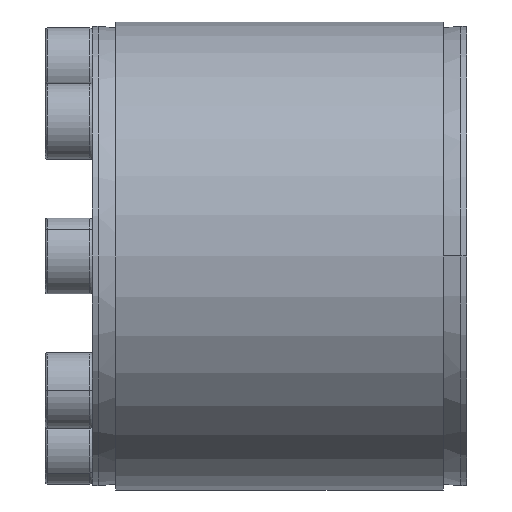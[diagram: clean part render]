
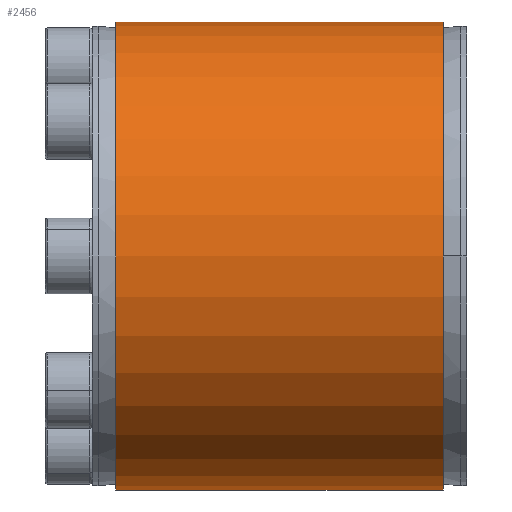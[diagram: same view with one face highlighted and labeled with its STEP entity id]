
A CAD part, front view. The second image highlights one B-rep face of the part: STEP entity #2456.
In plain terms, the highlighted cylindrical face has radius 40 mm (diameter 80 mm), a partial arc.
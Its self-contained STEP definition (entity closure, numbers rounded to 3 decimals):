
#143 = CIRCLE ( 'NONE', #5969, 40. ) ;
#197 = VECTOR ( 'NONE', #1256, 1000. ) ;
#314 = VERTEX_POINT ( 'NONE', #982 ) ;
#683 = DIRECTION ( 'NONE',  ( 1., 0., 0. ) ) ;
#792 = DIRECTION ( 'NONE',  ( 1., 0., 0. ) ) ;
#851 = CARTESIAN_POINT ( 'NONE',  ( 23.206, 5.771, -40. ) ) ;
#852 = CARTESIAN_POINT ( 'NONE',  ( -32.809, 5.771, -40. ) ) ;
#902 = DIRECTION ( 'NONE',  ( 0., 0., -1. ) ) ;
#982 = CARTESIAN_POINT ( 'NONE',  ( 23.206, 5.771, 40. ) ) ;
#1085 = DIRECTION ( 'NONE',  ( 1., 0., 0. ) ) ;
#1256 = DIRECTION ( 'NONE',  ( 1., 0., 0. ) ) ;
#1464 = ORIENTED_EDGE ( 'NONE', *, *, #1664, .F. ) ;
#1521 = VERTEX_POINT ( 'NONE', #852 ) ;
#1664 = EDGE_CURVE ( 'NONE', #6448, #314, #4167, .T. ) ;
#1761 = CARTESIAN_POINT ( 'NONE',  ( 40.716, 5.771, 40. ) ) ;
#1792 = ORIENTED_EDGE ( 'NONE', *, *, #3647, .F. ) ;
#1832 = FACE_OUTER_BOUND ( 'NONE', #2418, .T. ) ;
#2083 = CARTESIAN_POINT ( 'NONE',  ( -32.809, 5.771, 40. ) ) ;
#2365 = ORIENTED_EDGE ( 'NONE', *, *, #2471, .T. ) ;
#2418 = EDGE_LOOP ( 'NONE', ( #1464, #2365, #4562, #1792 ) ) ;
#2456 = ADVANCED_FACE ( 'NONE', ( #1832 ), #4075, .T. ) ;
#2471 = EDGE_CURVE ( 'NONE', #6448, #1521, #143, .T. ) ;
#2812 = AXIS2_PLACEMENT_3D ( 'NONE', #4152, #1085, #4658 ) ;
#2826 = VECTOR ( 'NONE', #5107, 1000. ) ;
#2944 = LINE ( 'NONE', #3310, #197 ) ;
#3310 = CARTESIAN_POINT ( 'NONE',  ( 40.716, 5.771, -40. ) ) ;
#3647 = EDGE_CURVE ( 'NONE', #314, #3921, #4143, .T. ) ;
#3921 = VERTEX_POINT ( 'NONE', #851 ) ;
#3974 = CARTESIAN_POINT ( 'NONE',  ( -32.809, 5.771, 0. ) ) ;
#4075 = CYLINDRICAL_SURFACE ( 'NONE', #6319, 40. ) ;
#4143 = CIRCLE ( 'NONE', #2812, 40. ) ;
#4152 = CARTESIAN_POINT ( 'NONE',  ( 23.206, 5.771, 0. ) ) ;
#4167 = LINE ( 'NONE', #1761, #2826 ) ;
#4312 = DIRECTION ( 'NONE',  ( 0., 0., -1. ) ) ;
#4562 = ORIENTED_EDGE ( 'NONE', *, *, #4929, .T. ) ;
#4658 = DIRECTION ( 'NONE',  ( 0., 0., -1. ) ) ;
#4929 = EDGE_CURVE ( 'NONE', #1521, #3921, #2944, .T. ) ;
#5107 = DIRECTION ( 'NONE',  ( 1., 0., 0. ) ) ;
#5969 = AXIS2_PLACEMENT_3D ( 'NONE', #3974, #792, #4312 ) ;
#6319 = AXIS2_PLACEMENT_3D ( 'NONE', #6595, #683, #902 ) ;
#6448 = VERTEX_POINT ( 'NONE', #2083 ) ;
#6595 = CARTESIAN_POINT ( 'NONE',  ( 40.716, 5.771, 0. ) ) ;
